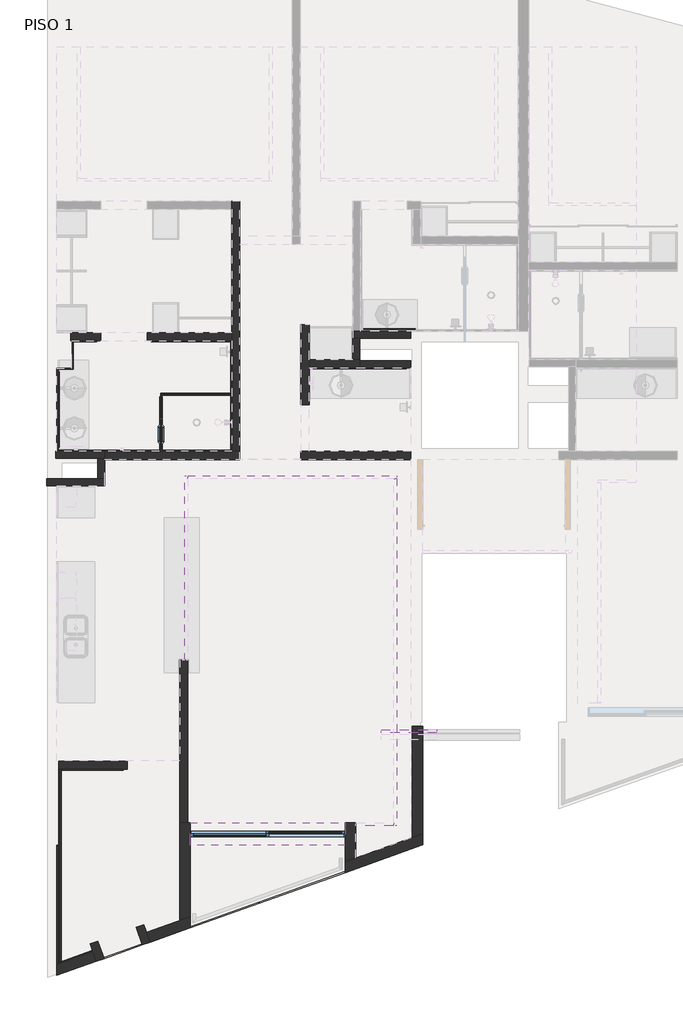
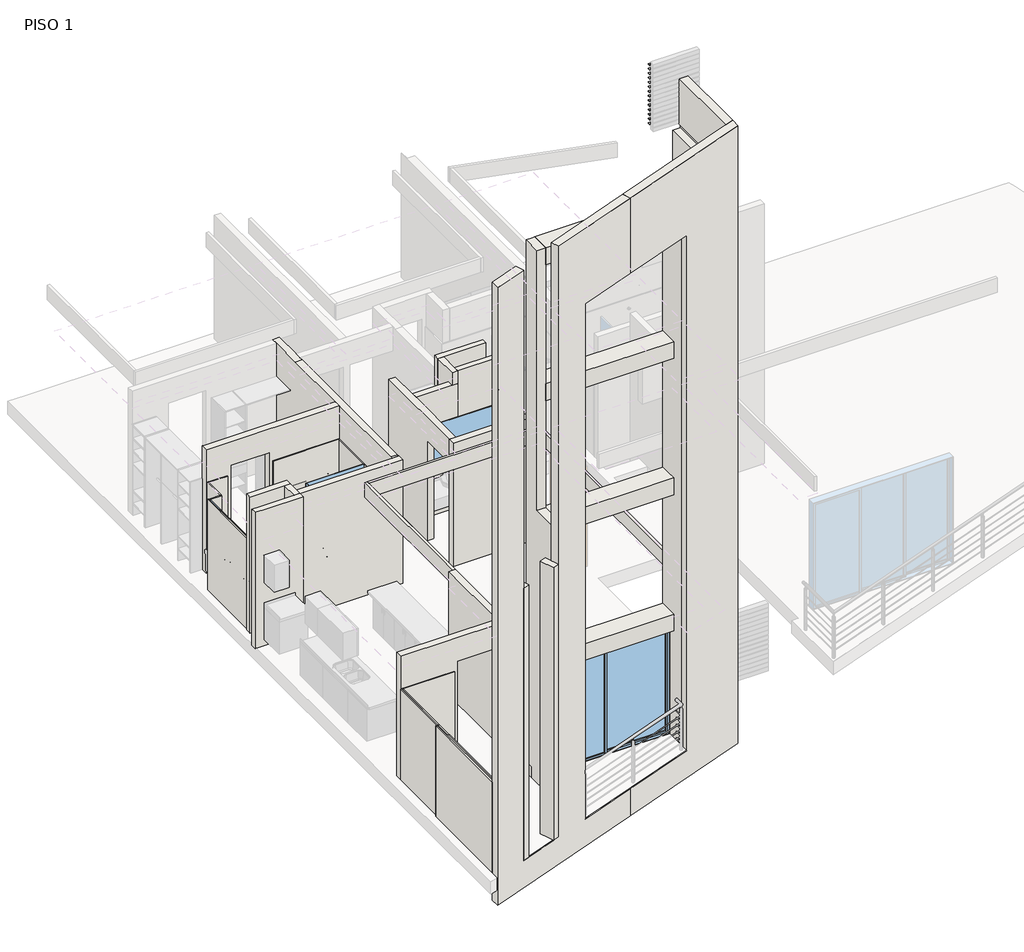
# One storey, part 1 of 4: 41 walls, 21 members, 6 windows.
"""IFC4 building model written with IfcOpenShell, lengths in millimetres."""

from ifc_helpers import new_model, si_unit, frame, origin, place, context, project, spatial, polyline, outline, extrude, faceted_brep, transform, mapped, element, save
from components import montante_rectangular_montante_rectangular_1_5x5_ea551b8a, montante_rectangular_montante_rectangular_1_5x5_73253757, window_76b8c877, window_f6d1640f, window_0ac24249, window_d0941a12, window_a27440a6, window_0328c900

model = new_model("IFC4")

# Units and contexts
model_context = context("Model", 3, world=origin())
ifc_project = project(units=[si_unit("LENGTHUNIT", "METRE", prefix="MILLI")], contexts=[model_context])

# Site, building, storey
site = spatial("IfcSite", under=ifc_project)
building = spatial("IfcBuilding", under=site)
storey = spatial("IfcBuildingStorey", under=building, Name="PISO 1", Elevation=3000.0)

# Members
placement = place(None, origin())
montante_rectangular_montante_rectangular_1_5x5_shape = montante_rectangular_montante_rectangular_1_5x5_ea551b8a(model_context)
element("IfcMember", 1, ObjectType="Montante rectangular : Montante rectangular - 1.5x5", at=placement, inside=storey, context=model_context, shape_type="MappedRepresentation", body=[
    mapped(montante_rectangular_montante_rectangular_1_5x5_shape, transform((39724.5059119, 25044.0111729, 15108.2666667), x_axis=(0.0, 0.0, 1.0), y_axis=(0.0, 1.0, 0.0), z_axis=(-1.0, 0.0, 0.0))),
])
element("IfcMember", 2, ObjectType="Montante rectangular : Montante rectangular - 1.5x5", at=placement, inside=storey, context=model_context, shape_type="MappedRepresentation", body=[
    mapped(montante_rectangular_montante_rectangular_1_5x5_shape, transform((39724.5059119, 25044.0111729, 15208.2333333), x_axis=(0.0, 0.0, 1.0), y_axis=(0.0, 1.0, 0.0), z_axis=(-1.0, 0.0, 0.0))),
])
element("IfcMember", 3, ObjectType="Montante rectangular : Montante rectangular - 1.5x5", at=placement, inside=storey, context=model_context, shape_type="MappedRepresentation", body=[
    mapped(montante_rectangular_montante_rectangular_1_5x5_shape, transform((39724.5059119, 25044.0111729, 15308.2), x_axis=(0.0, 0.0, 1.0), y_axis=(0.0, 1.0, 0.0), z_axis=(-1.0, 0.0, 0.0))),
])
element("IfcMember", 4, ObjectType="Montante rectangular : Montante rectangular - 1.5x5", at=placement, inside=storey, context=model_context, shape_type="MappedRepresentation", body=[
    mapped(montante_rectangular_montante_rectangular_1_5x5_shape, transform((39724.5059119, 25044.0111729, 15408.1666667), x_axis=(0.0, 0.0, 1.0), y_axis=(0.0, 1.0, 0.0), z_axis=(-1.0, 0.0, 0.0))),
])
element("IfcMember", 5, ObjectType="Montante rectangular : Montante rectangular - 1.5x5", at=placement, inside=storey, context=model_context, shape_type="MappedRepresentation", body=[
    mapped(montante_rectangular_montante_rectangular_1_5x5_shape, transform((39724.5059119, 25044.0111729, 15508.1333333), x_axis=(0.0, 0.0, 1.0), y_axis=(0.0, 1.0, 0.0), z_axis=(-1.0, 0.0, 0.0))),
])
element("IfcMember", 6, ObjectType="Montante rectangular : Montante rectangular - 1.5x5", at=placement, inside=storey, context=model_context, shape_type="MappedRepresentation", body=[
    mapped(montante_rectangular_montante_rectangular_1_5x5_shape, transform((39724.5059119, 25044.0111729, 15608.1), x_axis=(0.0, 0.0, 1.0), y_axis=(0.0, 1.0, 0.0), z_axis=(-1.0, 0.0, 0.0))),
])
element("IfcMember", 7, ObjectType="Montante rectangular : Montante rectangular - 1.5x5", at=placement, inside=storey, context=model_context, shape_type="MappedRepresentation", body=[
    mapped(montante_rectangular_montante_rectangular_1_5x5_shape, transform((39724.5059119, 25044.0111729, 15708.0666667), x_axis=(0.0, 0.0, 1.0), y_axis=(0.0, 1.0, 0.0), z_axis=(-1.0, 0.0, 0.0))),
])
element("IfcMember", 8, ObjectType="Montante rectangular : Montante rectangular - 1.5x5", at=placement, inside=storey, context=model_context, shape_type="MappedRepresentation", body=[
    mapped(montante_rectangular_montante_rectangular_1_5x5_shape, transform((39724.5059119, 25044.0111729, 15808.0333333), x_axis=(0.0, 0.0, 1.0), y_axis=(0.0, 1.0, 0.0), z_axis=(-1.0, 0.0, 0.0))),
])
element("IfcMember", 9, ObjectType="Montante rectangular : Montante rectangular - 1.5x5", at=placement, inside=storey, context=model_context, shape_type="MappedRepresentation", body=[
    mapped(montante_rectangular_montante_rectangular_1_5x5_shape, transform((39724.5059119, 25044.0111729, 15908.0), x_axis=(0.0, 0.0, 1.0), y_axis=(0.0, 1.0, 0.0), z_axis=(-1.0, 0.0, 0.0))),
])
element("IfcMember", 10, ObjectType="Montante rectangular : Montante rectangular - 1.5x5", at=placement, inside=storey, context=model_context, shape_type="MappedRepresentation", body=[
    mapped(montante_rectangular_montante_rectangular_1_5x5_shape, transform((39724.5059119, 25044.0111729, 16007.9666667), x_axis=(0.0, 0.0, 1.0), y_axis=(0.0, 1.0, 0.0), z_axis=(-1.0, 0.0, 0.0))),
])
element("IfcMember", 11, ObjectType="Montante rectangular : Montante rectangular - 1.5x5", at=placement, inside=storey, context=model_context, shape_type="MappedRepresentation", body=[
    mapped(montante_rectangular_montante_rectangular_1_5x5_shape, transform((39724.5059119, 25044.0111729, 16107.9333333), x_axis=(0.0, 0.0, 1.0), y_axis=(0.0, 1.0, 0.0), z_axis=(-1.0, 0.0, 0.0))),
])
element("IfcMember", 12, ObjectType="Montante rectangular : Montante rectangular - 1.5x5", at=placement, inside=storey, context=model_context, shape_type="MappedRepresentation", body=[
    mapped(montante_rectangular_montante_rectangular_1_5x5_shape, transform((39724.5059119, 25044.0111729, 16207.9), x_axis=(0.0, 0.0, 1.0), y_axis=(0.0, 1.0, 0.0), z_axis=(-1.0, 0.0, 0.0))),
])
element("IfcMember", 13, ObjectType="Montante rectangular : Montante rectangular - 1.5x5", at=placement, inside=storey, context=model_context, shape_type="MappedRepresentation", body=[
    mapped(montante_rectangular_montante_rectangular_1_5x5_shape, transform((39724.5059119, 25044.0111729, 16307.8666667), x_axis=(0.0, 0.0, 1.0), y_axis=(0.0, 1.0, 0.0), z_axis=(-1.0, 0.0, 0.0))),
])
element("IfcMember", 14, ObjectType="Montante rectangular : Montante rectangular - 1.5x5", at=placement, inside=storey, context=model_context, shape_type="MappedRepresentation", body=[
    mapped(montante_rectangular_montante_rectangular_1_5x5_shape, transform((39724.5059119, 25044.0111729, 16407.8333333), x_axis=(0.0, 0.0, 1.0), y_axis=(0.0, 1.0, 0.0), z_axis=(-1.0, 0.0, 0.0))),
])
montante_rectangular_montante_rectangular_1_5x5_2_shape = montante_rectangular_montante_rectangular_1_5x5_73253757(model_context)
element("IfcMember", 15, ObjectType="Montante rectangular : Montante rectangular - 1.5x5", at=placement, inside=storey, context=model_context, shape_type="MappedRepresentation", body=[
    mapped(montante_rectangular_montante_rectangular_1_5x5_2_shape, transform((40444.5059119, 25044.0111729, 2412.4668874), x_axis=(0.0, 0.0, 1.0), y_axis=(0.0, 1.0, 0.0), z_axis=(-1.0, 0.0, 0.0))),
])
element("IfcMember", 16, ObjectType="Montante rectangular : Montante rectangular - 1.5x5", at=placement, inside=storey, context=model_context, shape_type="MappedRepresentation", body=[
    mapped(montante_rectangular_montante_rectangular_1_5x5_2_shape, transform((40444.5059119, 25044.0111729, 2512.4337748), x_axis=(0.0, 0.0, 1.0), y_axis=(0.0, 1.0, 0.0), z_axis=(-1.0, 0.0, 0.0))),
])
element("IfcMember", 17, ObjectType="Montante rectangular : Montante rectangular - 1.5x5", at=placement, inside=storey, context=model_context, shape_type="MappedRepresentation", body=[
    mapped(montante_rectangular_montante_rectangular_1_5x5_2_shape, transform((40444.5059119, 25044.0111729, 2612.4006623), x_axis=(0.0, 0.0, 1.0), y_axis=(0.0, 1.0, 0.0), z_axis=(-1.0, 0.0, 0.0))),
])
element("IfcMember", 18, ObjectType="Montante rectangular : Montante rectangular - 1.5x5", at=placement, inside=storey, context=model_context, shape_type="MappedRepresentation", body=[
    mapped(montante_rectangular_montante_rectangular_1_5x5_2_shape, transform((40444.5059119, 25044.0111729, 2712.3675497), x_axis=(0.0, 0.0, 1.0), y_axis=(0.0, 1.0, 0.0), z_axis=(-1.0, 0.0, 0.0))),
])
element("IfcMember", 19, ObjectType="Montante rectangular : Montante rectangular - 1.5x5", at=placement, inside=storey, context=model_context, shape_type="MappedRepresentation", body=[
    mapped(montante_rectangular_montante_rectangular_1_5x5_2_shape, transform((40444.5059119, 25044.0111729, 2812.3344371), x_axis=(0.0, 0.0, 1.0), y_axis=(0.0, 1.0, 0.0), z_axis=(-1.0, 0.0, 0.0))),
])
element("IfcMember", 20, ObjectType="Montante rectangular : Montante rectangular - 1.5x5", at=placement, inside=storey, context=model_context, shape_type="MappedRepresentation", body=[
    mapped(montante_rectangular_montante_rectangular_1_5x5_2_shape, transform((40444.5059119, 25044.0111729, 2912.3013245), x_axis=(0.0, 0.0, 1.0), y_axis=(0.0, 1.0, 0.0), z_axis=(-1.0, 0.0, 0.0))),
])
element("IfcMember", 21, ObjectType="Montante rectangular : Montante rectangular - 1.5x5", at=placement, inside=storey, context=model_context, shape_type="MappedRepresentation", body=[
    mapped(montante_rectangular_montante_rectangular_1_5x5_2_shape, transform((40444.5059119, 25044.0111729, 3012.2682119), x_axis=(0.0, 0.0, 1.0), y_axis=(0.0, 1.0, 0.0), z_axis=(-1.0, 0.0, 0.0))),
])

# Walls
element("IfcWall", 22, ObjectType="Muro block 12cms_int_ductos", at=placement, inside=storey, context=model_context, shape_type="Brep", body=[
    faceted_brep([(39354.5300226, 31444.0104769, 3000.0), (39354.5300226, 31813.9733508, 3000.0), (39354.5300226, 31813.9733508, 6000.0), (39354.5300226, 31424.0104769, 6000.0), (39354.5300226, 31304.0104769, 6000.0), (39354.5300226, 31304.0104769, 5720.0), (39354.5300226, 31444.0104769, 5720.0), (39234.5300226, 31444.0104769, 3000.0), (39234.5300226, 31444.0104769, 5720.0), (39234.5300226, 31304.0104769, 5720.0), (39234.5300226, 31304.0104769, 6000.0), (39234.5300226, 31813.9733508, 6000.0), (39234.5300226, 31813.9733508, 3000.0)], [[[0, 1, 2, 3, 4, 5, 6]], [[7, 8, 9, 10, 11, 12]], [[1, 0, 7, 12]], [[4, 3, 2, 11, 10]], [[2, 1, 12, 11]], [[5, 9, 8, 6]], [[0, 6, 8, 7]], [[5, 4, 10, 9]]]),
])
element("IfcWall", 23, ObjectType="Trabe 35cms_para ventana 2", at=placement, inside=storey, context=model_context, shape_type="SweptSolid", body=[
    extrude(outline(polyline([(36434.5300226, 23470.9402233), (39104.5057602, 23470.9402233), (39104.5057602, 23080.9402233), (36434.5300226, 23080.9402233), (36434.5300226, 23470.9402233)])), frame((0.0, 0.0, 14350.0), z_axis=(0.0, 0.0, 1.0), x_axis=(1.0, 0.0, 0.0)), (0.0, 0.0, 1.0), 370.0),
    extrude(outline(polyline([(36434.5300226, 23470.9402233), (39104.5057602, 23470.9402233), (39104.5057602, 23080.9402233), (36434.5300226, 23080.9402233), (36434.5300226, 23470.9402233)])), frame((0.0, 0.0, 5350.0), z_axis=(0.0, 0.0, 1.0), x_axis=(1.0, 0.0, 0.0)), (0.0, 0.0, 1.0), 370.0),
    extrude(outline(polyline([(36434.5300226, 23470.9402233), (39104.5057602, 23470.9402233), (39104.5057602, 23080.9402233), (36434.5300226, 23080.9402233), (36434.5300226, 23470.9402233)])), frame((0.0, 0.0, 8350.0), z_axis=(0.0, 0.0, 1.0), x_axis=(1.0, 0.0, 0.0)), (0.0, 0.0, 1.0), 370.0),
    extrude(outline(polyline([(36434.5300226, 23470.9402233), (39104.5057602, 23470.9402233), (39104.5057602, 23080.9402233), (36434.5300226, 23080.9402233), (36434.5300226, 23470.9402233)])), frame((0.0, 0.0, 11350.0), z_axis=(0.0, 0.0, 1.0), x_axis=(1.0, 0.0, 0.0)), (0.0, 0.0, 1.0), 370.0),
])
element("IfcWall", 24, ObjectType="Muro block 12cms_int_ductos", at=placement, inside=storey, context=model_context, shape_type="Brep", body=[
    faceted_brep([(39234.5300226, 31813.9733508, 6000.0), (39234.5300226, 31813.9733508, 3000.0), (39354.5300226, 31813.9733508, 3000.0), (40234.5059119, 31813.9733508, 3000.0), (40234.5059119, 31813.9733508, 6000.0), (39354.5300226, 31813.9733508, 6000.0), (39234.5300226, 31933.9733508, 3000.0), (39234.5300226, 31933.9733508, 5720.0), (39234.5300226, 31933.9733508, 6000.0), (40234.5059119, 31933.9733508, 6000.0), (40234.5059119, 31933.9733508, 3000.0), (39374.5300226, 31933.9733508, 3000.0)], [[[0, 1, 2, 3, 4, 5]], [[6, 7, 8, 9, 10, 11]], [[3, 2, 1, 6, 11, 10]], [[0, 5, 4, 9, 8]], [[0, 8, 7, 6, 1]], [[4, 3, 10, 9]]]),
])
element("IfcWall", 25, ObjectType="Muro block 12cms_int_ductos", at=placement, inside=storey, context=model_context, shape_type="Brep", body=[
    faceted_brep([(39354.5300226, 31304.0104769, 3000.0), (40234.5059119, 31304.0104769, 3000.0), (40234.5059119, 31304.0104769, 6000.0), (39354.5300226, 31304.0104769, 6000.0), (39354.5300226, 31304.0104769, 5720.0), (39354.5300226, 31424.0104769, 3000.0), (39354.5300226, 31424.0104769, 6000.0), (40234.5059119, 31424.0104769, 6000.0), (40234.5059119, 31424.0104769, 3000.0)], [[[0, 1, 2, 3, 4]], [[5, 6, 7, 8]], [[1, 0, 5, 8]], [[3, 2, 7, 6]], [[0, 4, 3, 6, 5]], [[2, 1, 8, 7]]]),
])
element("IfcWall", 26, ObjectType="Muro block 12cms_int_ductos", at=placement, inside=storey, context=model_context, shape_type="Brep", body=[
    faceted_brep([(34123.8589874, 29744.010184, 6000.0), (34843.8589874, 29744.010184, 6000.0), (34963.8589874, 29744.010184, 6000.0), (34963.8589874, 29864.010184, 6000.0), (34123.8589874, 29864.010184, 6000.0), (34123.8589874, 29804.010184, 6000.0), (34123.8589874, 29744.010184, 3000.0), (34843.8589874, 29744.010184, 3000.0), (34963.8589874, 29744.010184, 3000.0), (34123.8589874, 29864.010184, 3000.0), (34963.8589874, 29864.010184, 5720.0), (34963.8589874, 29864.010184, 3000.0), (34143.8589874, 29864.010184, 3000.0)], [[[0, 1, 2, 3, 4, 5]], [[6, 7, 8, 2, 1, 0]], [[9, 4, 3, 10, 11, 12]], [[8, 7, 6, 9, 12, 11]], [[6, 0, 5, 4, 9]], [[8, 11, 10, 3, 2]]]),
])
element("IfcWall", 27, ObjectType="Muro block 12cms_int_ductos", at=placement, inside=storey, context=model_context, shape_type="Brep", body=[
    faceted_brep([(33963.8589874, 29274.010184, 6000.0), (34143.8589874, 29274.010184, 6000.0), (34963.8589874, 29274.010184, 6000.0), (34963.8589874, 29394.010184, 6000.0), (34843.8589874, 29394.010184, 6000.0), (34123.8589874, 29394.010184, 6000.0), (33963.8589874, 29394.010184, 6000.0), (33963.8589874, 29334.010184, 6000.0), (33963.8589874, 29274.010184, 3000.0), (33983.8589874, 29274.010184, 3000.0), (34143.8589874, 29274.010184, 3000.0), (34963.8589874, 29274.010184, 3000.0), (33963.8589874, 29394.010184, 3000.0), (34963.8589874, 29394.010184, 3000.0), (34843.8589874, 29394.010184, 3000.0)], [[[0, 1, 2, 3, 4, 5, 6, 7]], [[8, 9, 10, 11, 2, 1, 0]], [[12, 6, 5, 4, 3, 13, 14]], [[11, 10, 9, 8, 12, 14, 13]], [[8, 0, 7, 6, 12]], [[2, 11, 13, 3]]]),
])
element("IfcWall", 28, ObjectType="Muro block 12cms_int_ductos", at=placement, inside=storey, context=model_context, shape_type="Brep", body=[
    faceted_brep([(34963.8589874, 29394.010184, 3000.0), (34963.8589874, 29724.010184, 3000.0), (34963.8589874, 29744.010184, 3000.0), (34963.8589874, 29744.010184, 6000.0), (34963.8589874, 29394.010184, 6000.0), (34843.8589874, 29394.010184, 3000.0), (34843.8589874, 29394.010184, 6000.0), (34843.8589874, 29744.010184, 6000.0), (34843.8589874, 29744.010184, 3000.0)], [[[0, 1, 2, 3, 4]], [[5, 6, 7, 8]], [[2, 1, 0, 5, 8]], [[4, 3, 7, 6]], [[2, 8, 7, 3]], [[0, 4, 6, 5]]]),
])
element("IfcWall", 29, ObjectType="Plafond tablaroca", at=placement, inside=storey, context=model_context, shape_type="Brep", body=[
    faceted_brep([(36394.5300226, 26269.0176189, 5402.7), (36394.5300226, 29394.010184, 5402.7), (36394.5300226, 29446.710184, 5402.7), (36394.5300226, 29446.710184, 5720.0), (36394.5300226, 29394.010184, 5720.0), (36394.5300226, 26269.0176189, 5720.0), (36341.8300226, 26269.0176189, 5402.7), (36341.8300226, 26269.0176189, 5720.0), (36341.8300226, 29446.710184, 5720.0), (36341.8300226, 29446.710184, 5402.7)], [[[0, 1, 2, 3, 4, 5]], [[6, 7, 8, 9]], [[0, 5, 7, 6]], [[3, 2, 9, 8]], [[2, 1, 0, 6, 9]], [[5, 4, 3, 8, 7]]]),
])
element("IfcWall", 30, ObjectType="Plafond tablaroca", at=placement, inside=storey, context=model_context, shape_type="Brep", body=[
    faceted_brep([(36394.5300226, 29394.010184, 5402.7), (39939.5059119, 29394.010184, 5402.7), (39992.2059119, 29394.010184, 5402.7), (39992.2059119, 29394.010184, 5720.0), (39939.5059119, 29394.010184, 5720.0), (36394.5300226, 29394.010184, 5720.0), (36394.5300226, 29446.710184, 5402.7), (36394.5300226, 29446.710184, 5720.0), (39992.2059119, 29446.710184, 5720.0), (39992.2059119, 29446.710184, 5402.7)], [[[0, 1, 2, 3, 4, 5]], [[6, 7, 8, 9]], [[0, 5, 7, 6]], [[3, 2, 9, 8]], [[2, 1, 0, 6, 9]], [[5, 4, 3, 8, 7]]]),
])
element("IfcWall", 31, ObjectType="Plafond tablaroca", at=placement, inside=storey, context=model_context, shape_type="Brep", body=[
    faceted_brep([(39939.5059119, 29394.010184, 5402.7), (39939.5059119, 23470.9402233, 5402.7), (39939.5059119, 23418.2402233, 5402.7), (39939.5059119, 23418.2402233, 5720.0), (39939.5059119, 23470.9402233, 5720.0), (39939.5059119, 29394.010184, 5720.0), (39992.2059119, 29394.010184, 5402.7), (39992.2059119, 29394.010184, 5720.0), (39992.2059119, 23418.2402233, 5720.0), (39992.2059119, 23418.2402233, 5402.7)], [[[0, 1, 2, 3, 4, 5]], [[6, 7, 8, 9]], [[0, 5, 7, 6]], [[3, 2, 9, 8]], [[2, 1, 0, 6, 9]], [[5, 4, 3, 8, 7]]]),
])
element("IfcWall", 32, ObjectType="Plafond tablaroca", at=placement, inside=storey, context=model_context, shape_type="SweptSolid", body=[
    extrude(outline(polyline([(39284.5057602, 23470.9402233), (39939.5059119, 23470.9402233), (39939.5059119, 23418.2402233), (39284.5057602, 23418.2402233), (39284.5057602, 23470.9402233)])), frame((0.0, 0.0, 5402.7), z_axis=(0.0, 0.0, 1.0), x_axis=(1.0, 0.0, 0.0)), (0.0, 0.0, 1.0), 317.3),
])
element("IfcWall", 33, ObjectType="Cerámica baño", at=placement, inside=storey, context=model_context, shape_type="Brep", body=[
    faceted_brep([(34163.8589874, 29864.010184, 3000.0), (34163.8589874, 29884.010184, 3000.0), (34163.8589874, 31273.9733508, 3000.0), (34163.8589874, 31293.9733508, 3000.0), (34163.8589874, 31293.9733508, 5000.0), (34163.8589874, 31273.9733508, 5000.0), (34163.8589874, 29884.010184, 5000.0), (34163.8589874, 29864.010184, 5000.0), (34143.8589874, 29864.010184, 3000.0), (34143.8589874, 29864.010184, 5000.0), (34143.8589874, 31293.9733508, 5000.0), (34143.8589874, 31293.9733508, 3000.0)], [[[0, 1, 2, 3, 4, 5, 6, 7]], [[8, 9, 10, 11]], [[3, 2, 1, 0, 8, 11]], [[7, 6, 5, 4, 10, 9]], [[0, 7, 9, 8]], [[4, 3, 11, 10]]]),
])
element("IfcWall", 34, ObjectType="Cerámica baño", at=placement, inside=storey, context=model_context, shape_type="Brep", body=[
    faceted_brep([(34163.8589874, 29864.010184, 3000.0), (37154.5300226, 29864.010184, 3000.0), (37154.5300226, 29864.010184, 5000.0), (34163.8589874, 29864.010184, 5000.0), (34163.8589874, 29884.010184, 3000.0), (34163.8589874, 29884.010184, 5000.0), (37134.5300226, 29884.010184, 5000.0), (37154.5300226, 29884.010184, 5000.0), (37154.5300226, 29884.010184, 3000.0), (37134.5300226, 29884.010184, 3000.0)], [[[0, 1, 2, 3]], [[4, 5, 6, 7, 8, 9]], [[1, 0, 4, 9, 8]], [[3, 2, 7, 6, 5]], [[0, 3, 5, 4]], [[2, 1, 8, 7]]]),
])
element("IfcWall", 35, ObjectType="Cerámica baño", at=placement, inside=storey, context=model_context, shape_type="Brep", body=[
    faceted_brep([(37154.5300226, 29884.010184, 3000.0), (37154.5300226, 31768.9733508, 3000.0), (37154.5300226, 31768.9733508, 5000.0), (37154.5300226, 29884.010184, 5000.0), (37134.5300226, 29884.010184, 3000.0), (37134.5300226, 29884.010184, 5000.0), (37134.5300226, 31748.9733508, 5000.0), (37134.5300226, 31768.9733508, 5000.0), (37134.5300226, 31768.9733508, 3000.0), (37134.5300226, 31748.9733508, 3000.0)], [[[0, 1, 2, 3]], [[4, 5, 6, 7, 8, 9]], [[1, 0, 4, 9, 8]], [[3, 2, 7, 6, 5]], [[2, 1, 8, 7]], [[0, 3, 5, 4]]]),
])
element("IfcWall", 36, ObjectType="Cerámica baño", at=placement, inside=storey, context=model_context, shape_type="SweptSolid", body=[
    extrude(outline(polyline([(35764.5300226, 31768.9733508), (37134.5300226, 31768.9733508), (37134.5300226, 31748.9733508), (35764.5300226, 31748.9733508), (35764.5300226, 31768.9733508)])), frame((0.0, 0.0, 3000.0), z_axis=(0.0, 0.0, 1.0), x_axis=(1.0, 0.0, 0.0)), (0.0, 0.0, 1.0), 2000.0),
])
element("IfcWall", 37, ObjectType="Cerámica baño", at=placement, inside=storey, context=model_context, shape_type="Brep", body=[
    faceted_brep([(34163.8589874, 31273.9733508, 3000.0), (34423.8589874, 31273.9733508, 3000.0), (34423.8589874, 31273.9733508, 5000.0), (34163.8589874, 31273.9733508, 5000.0), (34163.8589874, 31293.9733508, 3000.0), (34163.8589874, 31293.9733508, 5000.0), (34403.8589874, 31293.9733508, 5000.0), (34423.8589874, 31293.9733508, 5000.0), (34423.8589874, 31293.9733508, 3000.0), (34403.8589874, 31293.9733508, 3000.0)], [[[0, 1, 2, 3]], [[4, 5, 6, 7, 8, 9]], [[1, 0, 4, 9, 8]], [[3, 2, 7, 6, 5]], [[2, 1, 8, 7]], [[0, 3, 5, 4]]]),
])
element("IfcWall", 38, ObjectType="Cerámica baño", at=placement, inside=storey, context=model_context, shape_type="Brep", body=[
    faceted_brep([(34423.8589874, 31293.9733508, 3000.0), (34423.8589874, 31748.9733508, 3000.0), (34423.8589874, 31768.9733508, 3000.0), (34423.8589874, 31768.9733508, 5000.0), (34423.8589874, 31748.9733508, 5000.0), (34423.8589874, 31293.9733508, 5000.0), (34403.8589874, 31293.9733508, 3000.0), (34403.8589874, 31293.9733508, 5000.0), (34403.8589874, 31768.9733508, 5000.0), (34403.8589874, 31768.9733508, 3000.0)], [[[0, 1, 2, 3, 4, 5]], [[6, 7, 8, 9]], [[2, 1, 0, 6, 9]], [[5, 4, 3, 8, 7]], [[0, 5, 7, 6]], [[3, 2, 9, 8]]]),
])
element("IfcWall", 39, ObjectType="Cerámica baño", at=placement, inside=storey, context=model_context, shape_type="SweptSolid", body=[
    extrude(outline(polyline([(34824.5300226, 31748.9733508), (34423.8589874, 31748.9733508), (34423.8589874, 31768.9733508), (34824.5300226, 31768.9733508), (34824.5300226, 31748.9733508)])), frame((0.0, 0.0, 3000.0), z_axis=(0.0, 0.0, 1.0), x_axis=(1.0, 0.0, 0.0)), (0.0, 0.0, 1.0), 2000.0),
])
element("IfcWall", 40, ObjectType="Cerámica baño", at=placement, inside=storey, context=model_context, shape_type="SweptSolid", body=[
    extrude(outline(polyline([(34173.8589874, 23080.9402233), (34173.8589874, 24392.4819685), (34193.8589874, 24392.4819685), (34193.8589874, 23080.9402233), (34173.8589874, 23080.9402233)])), frame((0.0, 0.0, 3000.0), z_axis=(0.0, 0.0, 1.0), x_axis=(1.0, 0.0, 0.0)), (0.0, 0.0, 1.0), 2000.0),
])
element("IfcWall", 41, ObjectType="Cerámica baño", at=placement, inside=storey, context=model_context, shape_type="Brep", body=[
    faceted_brep([(34193.8589874, 23080.9402233, 3000.0), (34173.8589874, 23080.9402233, 3000.0), (34143.8589874, 23080.9402233, 3000.0), (34143.8589874, 23080.9402233, 5000.0), (34173.8589874, 23080.9402233, 5000.0), (34193.8589874, 23080.9402233, 5000.0), (34193.8589874, 23060.9402233, 3000.0), (34193.8589874, 23060.9402233, 5000.0), (34163.8589874, 23060.9402233, 5000.0), (34143.8589874, 23060.9402233, 5000.0), (34143.8589874, 23060.9402233, 3000.0), (34163.8589874, 23060.9402233, 3000.0)], [[[0, 1, 2, 3, 4, 5]], [[6, 7, 8, 9, 10, 11]], [[2, 1, 0, 6, 11, 10]], [[5, 4, 3, 9, 8, 7]], [[0, 5, 7, 6]], [[3, 2, 10, 9]]]),
])
element("IfcWall", 42, ObjectType="Cerámica baño", at=placement, inside=storey, context=model_context, shape_type="Brep", body=[
    faceted_brep([(34143.8589874, 23060.9402233, 3000.0), (34143.8589874, 21032.6648258, 3000.0), (34143.8589874, 21032.6648258, 5000.0), (34143.8589874, 23060.9402233, 5000.0), (34163.8589874, 23060.9402233, 3000.0), (34163.8589874, 23060.9402233, 5000.0), (34163.8589874, 21061.0238339, 5000.0), (34163.8589874, 21039.7918971, 5000.0), (34163.8589874, 21039.7918971, 3000.0), (34163.8589874, 21061.0238339, 3000.0)], [[[0, 1, 2, 3]], [[4, 5, 6, 7, 8, 9]], [[1, 0, 4, 9, 8]], [[3, 2, 7, 6, 5]], [[0, 3, 5, 4]], [[2, 1, 8, 7]]]),
])
element("IfcWall", 43, ObjectType="Cerámica baño", at=placement, inside=storey, context=model_context, shape_type="SweptSolid", body=[
    extrude(outline(polyline([(34762.5272081, 21253.1294489), (34163.8589874, 21039.7918971), (34163.8589874, 21061.0238339), (34755.8136696, 21271.9689925), (34762.5272081, 21253.1294489)])), frame((0.0, 0.0, 3000.0), z_axis=(0.0, 0.0, 1.0), x_axis=(1.0, 0.0, 0.0)), (0.0, 0.0, 1.0), 2000.0),
])
element("IfcWall", 44, ObjectType="Cerámica baño", at=placement, inside=storey, context=model_context, shape_type="Brep", body=[
    faceted_brep([(34193.8589874, 24392.4819685, 3000.0), (34193.8589874, 21050.4825039, 3000.0), (34193.8589874, 21050.4825039, 5000.0), (34193.8589874, 24392.4819685, 5000.0), (34213.8589874, 24392.4819685, 3000.0), (34213.8589874, 24392.4819685, 5000.0), (34213.8589874, 24372.4819685, 5000.0), (34213.8589874, 21057.6095751, 5000.0), (34213.8589874, 21057.6095751, 3000.0), (34213.8589874, 24372.4819685, 3000.0)], [[[0, 1, 2, 3]], [[4, 5, 6, 7, 8, 9]], [[1, 0, 4, 9, 8]], [[3, 2, 7, 6, 5]], [[0, 3, 5, 4]], [[2, 1, 8, 7]]]),
])
element("IfcWall", 45, ObjectType="Cerámica baño", at=placement, inside=storey, context=model_context, shape_type="SweptSolid", body=[
    extrude(outline(polyline([(34213.8589874, 24392.4819685), (35284.5300226, 24392.4819685), (35284.5300226, 24372.4819685), (34213.8589874, 24372.4819685), (34213.8589874, 24392.4819685)])), frame((0.0, 0.0, 3000.0), z_axis=(0.0, 0.0, 1.0), x_axis=(1.0, 0.0, 0.0)), (0.0, 0.0, 1.0), 2000.0),
])
element("IfcWall", 46, ObjectType="Muro block 14cms_int", at=placement, inside=storey, context=model_context, shape_type="Brep", body=[
    faceted_brep([(35694.5300226, 31768.9733508, 3000.0), (37154.5300226, 31768.9733508, 3000.0), (37154.5300226, 31768.9733508, 5720.0), (34398.8589874, 31768.9733508, 5720.0), (34383.8589874, 31768.9733508, 5720.0), (34383.8589874, 31768.9733508, 3000.0), (34398.8589874, 31768.9733508, 3000.0), (34894.5300226, 31768.9733508, 3000.0), (34894.5300226, 31768.9733508, 5200.0), (35694.5300226, 31768.9733508, 5200.0), (37154.5300226, 31908.9733508, 3000.0), (35694.5300226, 31908.9733508, 3000.0), (35694.5300226, 31908.9733508, 5200.0), (34894.5300226, 31908.9733508, 5200.0), (34894.5300226, 31908.9733508, 3000.0), (34398.8589874, 31908.9733508, 3000.0), (34383.8589874, 31908.9733508, 3000.0), (34383.8589874, 31908.9733508, 5720.0), (34398.8589874, 31908.9733508, 5720.0), (37154.5300226, 31908.9733508, 5720.0), (34383.8589874, 31788.9733508, 3000.0)], [[[0, 1, 2, 3, 4, 5, 6, 7, 8, 9]], [[10, 11, 12, 13, 14, 15, 16, 17, 18, 19]], [[1, 0, 11, 10]], [[14, 7, 6, 5, 20, 16, 15]], [[0, 9, 12, 11]], [[9, 8, 13, 12]], [[8, 7, 14, 13]], [[2, 1, 10, 19]], [[5, 4, 17, 16, 20]], [[2, 19, 18, 17, 4, 3]]]),
])
element("IfcWall", 47, ObjectType="Muro block 14cms_int", at=placement, inside=storey, context=model_context, shape_type="Brep", body=[
    faceted_brep([(40234.5059119, 29864.010184, 3000.0), (38344.5059119, 29864.010184, 3000.0), (38344.5059119, 29864.010184, 5200.0), (38344.5059119, 29864.010184, 5720.0), (38484.5059119, 29864.010184, 5720.0), (40234.5059119, 29864.010184, 5720.0), (40234.5059119, 29724.010184, 3000.0), (40234.5059119, 29724.010184, 5720.0), (38344.5059119, 29724.010184, 5720.0), (38344.5059119, 29724.010184, 3000.0)], [[[0, 1, 2, 3, 4, 5]], [[6, 7, 8, 9]], [[1, 0, 6, 9]], [[3, 2, 1, 9, 8]], [[0, 5, 7, 6]], [[5, 4, 3, 8, 7]]]),
])
element("IfcWall", 48, ObjectType="Muro block 14cms_int", at=placement, inside=storey, context=model_context, shape_type="Brep", body=[
    faceted_brep([(38484.5059119, 32044.0104769, 3000.0), (38484.5059119, 32044.0104769, 5720.0), (38484.5059119, 31444.0104769, 5720.0), (38484.5059119, 31304.0104769, 5720.0), (38484.5059119, 29864.010184, 5720.0), (38484.5059119, 29864.010184, 5200.0), (38484.5059119, 30664.010184, 5200.0), (38484.5059119, 30664.010184, 3000.0), (38484.5059119, 31304.0104769, 3000.0), (38484.5059119, 31444.0104769, 3000.0), (38344.5059119, 32044.0104769, 5720.0), (38344.5059119, 32044.0104769, 3000.0), (38344.5059119, 30664.010184, 3000.0), (38344.5059119, 30664.010184, 5200.0), (38344.5059119, 29864.010184, 5200.0), (38344.5059119, 29864.010184, 5720.0)], [[[0, 1, 2, 3, 4, 5, 6, 7, 8, 9]], [[10, 11, 12, 13, 14, 15]], [[11, 0, 9, 8, 7, 12]], [[1, 0, 11, 10]], [[4, 15, 14, 5]], [[13, 6, 5, 14]], [[6, 13, 12, 7]], [[15, 4, 3, 2, 1, 10]]]),
])
element("IfcWall", 49, ObjectType="Muro block 14cms_int", at=placement, inside=storey, context=model_context, shape_type="Brep", body=[
    faceted_brep([(38484.5059119, 31304.0104769, 3000.0), (39354.5300226, 31304.0104769, 3000.0), (39354.5300226, 31304.0104769, 5720.0), (39234.5300226, 31304.0104769, 5720.0), (38484.5059119, 31304.0104769, 5720.0), (38484.5059119, 31444.0104769, 3000.0), (38484.5059119, 31444.0104769, 5720.0), (39234.5300226, 31444.0104769, 5720.0), (39354.5300226, 31444.0104769, 5720.0), (39354.5300226, 31444.0104769, 3000.0), (39234.5300226, 31444.0104769, 3000.0), (39354.5300226, 31424.0104769, 3000.0), (39354.5300226, 31424.0104769, 5720.0)], [[[0, 1, 2, 3, 4]], [[5, 6, 7, 8, 9, 10]], [[1, 0, 5, 10, 9, 11]], [[0, 4, 6, 5]], [[2, 1, 11, 9, 8, 12]], [[4, 3, 2, 12, 8, 7, 6]]]),
])
element("IfcWall", 50, ObjectType="Muro block 14cms_int", at=placement, inside=storey, context=model_context, shape_type="Brep", body=[
    faceted_brep([(37294.5300226, 29864.010184, 3000.0), (37294.5300226, 34168.9785701, 3000.0), (37294.5300226, 34168.9785701, 5720.0), (37294.5300226, 33568.9784839, 5720.0), (37294.5300226, 33428.9784839, 5720.0), (37294.5300226, 33348.9733508, 5720.0), (37294.5300226, 29913.9733508, 5720.0), (37294.5300226, 29864.010184, 5720.0), (37154.5300226, 29864.010184, 3000.0), (37154.5300226, 29864.010184, 5720.0), (37154.5300226, 29913.9733508, 5720.0), (37154.5300226, 31768.9733508, 5720.0), (37154.5300226, 31908.9733508, 5720.0), (37154.5300226, 33348.9733508, 5720.0), (37154.5300226, 34028.9785701, 5720.0), (37154.5300226, 34168.9785701, 5720.0), (37154.5300226, 34168.9785701, 3000.0), (37154.5300226, 34028.9785701, 3000.0), (37154.5300226, 31908.9733508, 3000.0), (37154.5300226, 31768.9733508, 3000.0)], [[[0, 1, 2, 3, 4, 5, 6, 7]], [[8, 9, 10, 11, 12, 13, 14, 15, 16, 17, 18, 19]], [[1, 0, 8, 19, 18, 17, 16]], [[2, 1, 16, 15]], [[0, 7, 9, 8]], [[6, 5, 13, 12, 11, 10]], [[7, 6, 10, 9]], [[5, 4, 3, 2, 15, 14, 13]]]),
])
element("IfcWall", 51, ObjectType="Muro block 14cms_int", at=placement, inside=storey, context=model_context, shape_type="Brep", body=[
    faceted_brep([(36254.5300226, 24392.4819685, 5720.0), (34173.8589874, 24392.4819685, 5720.0), (34173.8589874, 24392.4819685, 5000.0), (34173.8589874, 24392.4819685, 3000.0), (34193.8589874, 24392.4819685, 3000.0), (35354.5300226, 24392.4819685, 3000.0), (35354.5300226, 24392.4819685, 5200.0), (36254.5300226, 24392.4819685, 5200.0), (34173.8589874, 24532.4819685, 5720.0), (36254.5300226, 24532.4819685, 5720.0), (36254.5300226, 24532.4819685, 5200.0), (35354.5300226, 24532.4819685, 5200.0), (35354.5300226, 24532.4819685, 3000.0), (34173.8589874, 24532.4819685, 3000.0)], [[[0, 1, 2, 3, 4, 5, 6, 7]], [[8, 9, 10, 11, 12, 13]], [[3, 13, 12, 5, 4]], [[9, 0, 7, 10]], [[6, 11, 10, 7]], [[11, 6, 5, 12]], [[1, 0, 9, 8]], [[13, 3, 2, 1, 8]]]),
])
element("IfcWall", 52, ObjectType="Muro block 14cms_int", at=placement, inside=storey, context=model_context, shape_type="Brep", body=[
    faceted_brep([(36394.5300226, 23275.9402233, 3000.0), (36394.5300226, 26269.0176189, 3000.0), (36394.5300226, 26269.0176189, 5720.0), (36394.5300226, 23470.9402233, 5720.0), (36394.5300226, 23470.9402233, 3233.4933171), (36394.5300226, 23275.9402233, 3233.4933171), (36254.5300226, 23275.9402233, 3000.0), (36254.5300226, 23275.9402233, 3233.4933171), (36254.5300226, 23470.9402233, 3233.4933171), (36254.5300226, 23470.9402233, 5720.0), (36254.5300226, 24392.4819685, 5720.0), (36254.5300226, 24532.4819685, 5720.0), (36254.5300226, 26269.0176189, 5720.0), (36254.5300226, 26269.0176189, 3000.0), (36341.8300226, 26269.0176189, 5720.0)], [[[0, 1, 2, 3, 4, 5]], [[6, 7, 8, 9, 10, 11, 12, 13]], [[1, 0, 6, 13]], [[2, 1, 13, 12, 14]], [[3, 2, 14, 12, 11, 10, 9]], [[0, 5, 7, 6]], [[4, 8, 7, 5]], [[4, 3, 9, 8]]]),
])
element("IfcWall", 53, ObjectType="Muro block 14cms_int", at=placement, inside=storey, context=model_context, shape_type="Brep", body=[
    faceted_brep([(34963.8589874, 29724.010184, 3000.0), (37294.5300226, 29724.010184, 3000.0), (37294.5300226, 29724.010184, 5720.0), (34963.8589874, 29724.010184, 5720.0), (34963.8589874, 29864.010184, 3000.0), (34963.8589874, 29864.010184, 5720.0), (37154.5300226, 29864.010184, 5720.0), (37294.5300226, 29864.010184, 5720.0), (37294.5300226, 29864.010184, 3000.0), (37154.5300226, 29864.010184, 3000.0), (34963.8589874, 29744.010184, 3000.0)], [[[0, 1, 2, 3]], [[4, 5, 6, 7, 8, 9]], [[1, 0, 10, 4, 9, 8]], [[2, 1, 8, 7]], [[0, 3, 5, 4, 10]], [[3, 2, 7, 6, 5]]]),
])
element("IfcWall", 54, ObjectType="Muro block 14cms_int", at=placement, inside=storey, context=model_context, shape_type="Brep", body=[
    faceted_brep([(34954.8258589, 21130.5683258, 3000.0), (34847.4092594, 21432.0009799, 3000.0), (34847.4092594, 21432.0009799, 9000.0), (34954.8258589, 21130.5683258, 9000.0), (34822.9490539, 21083.5735568, 3000.0), (34822.9490539, 21083.5735568, 9000.0), (34715.5324544, 21385.006211, 9000.0), (34715.5324544, 21385.006211, 3000.0), (34762.5272081, 21253.1294489, 3000.0)], [[[0, 1, 2, 3]], [[4, 5, 6, 7, 8]], [[1, 0, 4, 8, 7]], [[2, 1, 7, 6]], [[3, 2, 6, 5]], [[0, 3, 5, 4]]]),
])
element("IfcWall", 55, ObjectType="Muro block 14cms_int", at=placement, inside=storey, context=model_context, shape_type="Brep", body=[
    faceted_brep([(35506.7932842, 21666.9748248, 3000.0), (35614.2098837, 21365.5421706, 3000.0), (35614.2098837, 21365.5421706, 9000.0), (35506.7932842, 21666.9748248, 9000.0), (35638.6700892, 21713.9695938, 3000.0), (35638.6700892, 21713.9695938, 9000.0), (35746.0866887, 21412.5369396, 9000.0), (35746.0866887, 21412.5369396, 3000.0), (35685.6648429, 21582.0928317, 3000.0)], [[[0, 1, 2, 3]], [[4, 5, 6, 7, 8]], [[1, 0, 4, 8, 7]], [[3, 2, 6, 5]], [[0, 3, 5, 4]], [[2, 1, 7, 6]]]),
])
element("IfcWall", 56, ObjectType="Muro block 18cms_ext", at=placement, inside=storey, context=model_context, shape_type="Brep", body=[
    faceted_brep([(40444.5059119, 23277.9227896, 2400.0), (40264.5059119, 23213.7791487, 2400.0), (37562.5611718, 22250.9315208, 2400.0), (37562.5611718, 22250.9315208, 2720.0), (40394.5059119, 23260.1051116, 2720.0), (40394.5059119, 23260.1051116, 3000.0), (39284.5057602, 22864.5526055, 3000.0), (39104.5057602, 22800.4089647, 3000.0), (39104.5057602, 22800.4089647, 9000.0), (39104.5057602, 22800.4089647, 14350.0), (37562.5611718, 22250.9315208, 14350.0), (37562.5611718, 22250.9315208, 14720.0), (39104.5057602, 22800.4089647, 14720.0), (39284.5057602, 22864.5526055, 14720.0), (40264.5059119, 23213.7791487, 14720.0), (40424.5059119, 23270.7957184, 14720.0), (40424.5059119, 23270.7957184, 15000.0), (40264.5059119, 23213.7791487, 15000.0), (37562.5611718, 22250.9315208, 15000.0), (37562.5611718, 22250.9315208, 16000.0), (40264.5059119, 23213.7791487, 16000.0), (40444.5059119, 23277.9227896, 16000.0), (37622.9830176, 22081.3756287, 2400.0), (40444.5059119, 23086.8353576, 2400.0), (40444.5059119, 23086.8353576, 16000.0), (37622.9830176, 22081.3756287, 16000.0), (37622.9830176, 22081.3756287, 14350.0), (39104.5057602, 22609.3215327, 14350.0), (39104.5057602, 22609.3215327, 3000.0), (37622.9830176, 22081.3756287, 3000.0), (37616.2694792, 22100.2151723, 3000.0), (37616.2694792, 22100.2151723, 2720.0), (37616.2694792, 22100.2151723, 15000.0), (37616.2694792, 22100.2151723, 14720.0), (39104.5057602, 22630.5534696, 3000.0), (40394.5059119, 23090.2496165, 2720.0), (40394.5059119, 23090.2496165, 3000.0), (40424.5059119, 23100.9402233, 14720.0), (40424.5059119, 23100.9402233, 15000.0)], [[[0, 1, 2, 3, 4, 5, 6, 7, 8, 9, 10, 11, 12, 13, 14, 15, 16, 17, 18, 19, 20, 21]], [[22, 23, 24, 25, 26, 27, 28, 29]], [[2, 1, 0, 23, 22]], [[2, 22, 29, 30, 31, 3]], [[25, 19, 18, 32, 33, 11, 10, 26]], [[21, 20, 19, 25, 24]], [[10, 9, 27, 26]], [[29, 28, 34, 30]], [[4, 3, 31, 35]], [[7, 6, 5, 36, 34]], [[36, 35, 31, 30, 34]], [[0, 21, 24, 23]], [[35, 36, 5, 4]], [[27, 9, 8, 7, 34, 28]], [[33, 37, 15, 14, 13, 12, 11]], [[16, 38, 32, 18, 17]], [[37, 38, 16, 15]], [[38, 37, 33, 32]]]),
])
element("IfcWall", 57, ObjectType="Muro block 18cms_ext", at=placement, inside=storey, context=model_context, shape_type="Brep", body=[
    faceted_brep([(36434.5300226, 21848.9536047, 3000.0), (36434.5300226, 23275.9402233, 3000.0), (36434.5300226, 23275.9402233, 3233.4933171), (36434.5300226, 23470.9402233, 3233.4933171), (36434.5300226, 23470.9402233, 5350.0), (36434.5300226, 23470.9402233, 5720.0), (36434.5300226, 23470.9402233, 8350.0), (36434.5300226, 23470.9402233, 8720.0), (36434.5300226, 23470.9402233, 11350.0), (36434.5300226, 23470.9402233, 11720.0), (36434.5300226, 23470.9402233, 14350.0), (36434.5300226, 23470.9402233, 14720.0), (36434.5300226, 23080.9402233, 14720.0), (36434.5300226, 23080.9402233, 14350.0), (36434.5300226, 23080.9402233, 11720.0), (36434.5300226, 23080.9402233, 11350.0), (36434.5300226, 23080.9402233, 9000.0), (36434.5300226, 21848.9536047, 9000.0), (36254.5300226, 23275.9402233, 3000.0), (36254.5300226, 21784.8099638, 3000.0), (36254.5300226, 21784.8099638, 9000.0), (36254.5300226, 23080.9402233, 9000.0), (36254.5300226, 23080.9402233, 14720.0), (36254.5300226, 23470.9402233, 14720.0), (36254.5300226, 23470.9402233, 12000.0), (36254.5300226, 23470.9402233, 9000.0), (36254.5300226, 23470.9402233, 8720.0), (36254.5300226, 23470.9402233, 6000.0), (36254.5300226, 23470.9402233, 5720.0), (36254.5300226, 23470.9402233, 3233.4933171), (36254.5300226, 23275.9402233, 3233.4933171), (36394.5300226, 23275.9402233, 3000.0), (36394.5300226, 23275.9402233, 3233.4933171), (36394.5300226, 23470.9402233, 3233.4933171), (36394.5300226, 23470.9402233, 14720.0)], [[[0, 1, 2, 3, 4, 5, 6, 7, 8, 9, 10, 11, 12, 13, 14, 15, 16, 17]], [[18, 19, 20, 21, 22, 23, 24, 25, 26, 27, 28, 29, 30]], [[1, 0, 19, 18, 31]], [[19, 0, 17, 20]], [[17, 16, 21, 20]], [[21, 16, 15, 14, 13, 12, 22]], [[18, 30, 32, 2, 1, 31]], [[3, 2, 32, 30, 29, 33]], [[11, 10, 9, 8, 7, 6, 5, 4, 3, 33, 29, 28, 27, 26, 25, 24, 23, 34]], [[11, 34, 23, 22, 12]]]),
])
element("IfcWall", 58, ObjectType="Muro block 18cms_ext", at=placement, inside=storey, context=model_context, shape_type="Brep", body=[
    faceted_brep([(37562.5611718, 22250.9315208, 2400.0), (34143.8589874, 21032.6648258, 2400.0), (34143.8589874, 21032.6648258, 2720.0), (37562.5611718, 22250.9315208, 2720.0), (37562.5611718, 22250.9315208, 16000.0), (37562.5611718, 22250.9315208, 15000.0), (37562.5611718, 22250.9315208, 14720.0), (37562.5611718, 22250.9315208, 14350.0), (36434.5300226, 21848.9536047, 14350.0), (36434.5300226, 21848.9536047, 9000.0), (36434.5300226, 21848.9536047, 3000.0), (36254.5300226, 21784.8099638, 3000.0), (35685.6648429, 21582.0928317, 3000.0), (35685.6648429, 21582.0928317, 16000.0), (34143.8589874, 21032.6648258, 16000.0), (34762.5272081, 21253.1294489, 16000.0), (34762.5272081, 21253.1294489, 3000.0), (34213.8589874, 21057.6095751, 3000.0), (34193.8589874, 21050.4825039, 3000.0), (34143.8589874, 21032.6648258, 3000.0), (34143.8589874, 20841.5773939, 2400.0), (37622.9830176, 22081.3756287, 2400.0), (37622.9830176, 22081.3756287, 3000.0), (36434.5300226, 21657.8661727, 3000.0), (36434.5300226, 21657.8661727, 14350.0), (37622.9830176, 22081.3756287, 14350.0), (37622.9830176, 22081.3756287, 16000.0), (35746.0866887, 21412.5369396, 16000.0), (35746.0866887, 21412.5369396, 9000.0), (35746.0866887, 21412.5369396, 3000.0), (35614.2098837, 21365.5421706, 3000.0), (34954.8258589, 21130.5683258, 3000.0), (34822.9490539, 21083.5735568, 3000.0), (34822.9490539, 21083.5735568, 9000.0), (34822.9490539, 21083.5735568, 16000.0), (34143.8589874, 20841.5773939, 16000.0), (37616.2694792, 22100.2151723, 2720.0), (37616.2694792, 22100.2151723, 3000.0), (36434.5300226, 21679.0981096, 3000.0), (35739.3731503, 21431.3764832, 3000.0), (34816.2355155, 21102.4131004, 3000.0), (34143.8589874, 20862.8093308, 2720.0), (34143.8589874, 20862.8093308, 3000.0)], [[[0, 1, 2, 3]], [[4, 5, 6, 7, 8, 9, 10, 11, 12, 13]], [[14, 15, 16, 17, 18, 19]], [[20, 21, 22, 23, 24, 25, 26, 27, 28, 29, 30, 31, 32, 33, 34, 35]], [[1, 0, 21, 20]], [[26, 4, 13, 27]], [[15, 14, 35, 34]], [[4, 26, 25, 7, 6, 5]], [[21, 0, 3, 36, 37, 22]], [[8, 7, 25, 24]], [[23, 22, 37, 38]], [[8, 24, 23, 38, 10, 9]], [[32, 31, 30, 29, 39, 40]], [[41, 36, 3, 2]], [[38, 39, 12, 11, 10]], [[40, 42, 19, 18, 17, 16]], [[39, 38, 37, 36, 41, 42, 40]], [[1, 20, 35, 14, 19, 42, 41, 2]], [[27, 13, 12, 39, 29, 28]], [[15, 34, 33, 32, 40, 16]]]),
])
element("IfcWall", 59, ObjectType="Muro block 18cms_ext", at=placement, inside=storey, context=model_context, shape_type="Brep", body=[
    faceted_brep([(39104.5057602, 23470.9402233, 3000.0), (39104.5057602, 22800.4089647, 3000.0), (39104.5057602, 22800.4089647, 14350.0), (39104.5057602, 22800.4089647, 14720.0), (39104.5057602, 23080.9402233, 14720.0), (39104.5057602, 23470.9402233, 14720.0), (39104.5057602, 23470.9402233, 14350.0), (39104.5057602, 23470.9402233, 11720.0), (39104.5057602, 23470.9402233, 11350.0), (39104.5057602, 23470.9402233, 8720.0), (39104.5057602, 23470.9402233, 8350.0), (39104.5057602, 23470.9402233, 5720.0), (39104.5057602, 23470.9402233, 5350.0), (39284.5057602, 22864.5526055, 3000.0), (39284.5057602, 23470.9402233, 3000.0), (39284.5057602, 23470.9402233, 8402.7), (39284.5057602, 23470.9402233, 8720.0), (39284.5057602, 23470.9402233, 11452.7), (39284.5057602, 23470.9402233, 11720.0), (39284.5057602, 23470.9402233, 14402.7), (39284.5057602, 23470.9402233, 14720.0), (39284.5057602, 23418.2402233, 14720.0), (39284.5057602, 22864.5526055, 14720.0)], [[[0, 1, 2, 3, 4, 5, 6, 7, 8, 9, 10, 11, 12]], [[13, 14, 15, 16, 17, 18, 19, 20, 21, 22]], [[1, 0, 14, 13]], [[1, 13, 22, 3, 2]], [[14, 0, 12, 11, 10, 9, 8, 7, 6, 5, 20, 19, 18, 17, 16, 15]], [[5, 4, 3, 22, 21, 20]]]),
])
element("IfcWall", 60, ObjectType="Muro block 18cms_ext", at=placement, inside=storey, context=model_context, shape_type="Brep", body=[
    faceted_brep([(40264.5059119, 25134.0112971, 2400.0), (40264.5059119, 23213.7791487, 2400.0), (40264.5059119, 23213.7791487, 14720.0), (40264.5059119, 25134.0112971, 14720.0), (40264.5059119, 23213.7791487, 16000.0), (40264.5059119, 25134.0112971, 16000.0), (40264.5059119, 25134.0112971, 15000.0), (40264.5059119, 23213.7791487, 15000.0), (40444.5059119, 23277.9227896, 2400.0), (40444.5059119, 25134.0112971, 2400.0), (40444.5059119, 25134.0112971, 16000.0), (40444.5059119, 23277.9227896, 16000.0), (40424.5059119, 23270.7957184, 15000.0), (40424.5059119, 23270.7957184, 14720.0), (40424.5059119, 25134.0112971, 14720.0), (40424.5059119, 25134.0112971, 15000.0)], [[[0, 1, 2, 3]], [[4, 5, 6, 7]], [[8, 9, 10, 11]], [[1, 0, 9, 8]], [[5, 4, 11, 10]], [[1, 8, 11, 4, 7, 12, 13, 2]], [[5, 10, 9, 0, 3, 14, 15, 6]], [[13, 14, 3, 2]], [[15, 12, 7, 6]], [[14, 13, 12, 15]]]),
])
element("IfcWall", 61, ObjectType="sardinel", at=placement, inside=storey, context=model_context, shape_type="SweptSolid", body=[
    extrude(outline(polyline([(35954.5300226, 30809.010184), (35954.5300226, 29884.010184), (35914.5300226, 29884.010184), (35914.5300226, 30809.010184), (35954.5300226, 30809.010184)])), frame((0.0, 0.0, 2980.0), z_axis=(0.0, 0.0, 1.0), x_axis=(1.0, 0.0, 0.0)), (0.0, 0.0, 1.0), 20.0),
])
element("IfcWall", 62, ObjectType="sardinel", at=placement, inside=storey, context=model_context, shape_type="SweptSolid", body=[
    extrude(outline(polyline([(37134.5300226, 30828.9733508), (35934.5300226, 30828.9733508), (35934.5300226, 30868.9733508), (37134.5300226, 30868.9733508), (37134.5300226, 30828.9733508)])), frame((0.0, 0.0, 2980.0), z_axis=(0.0, 0.0, 1.0), x_axis=(1.0, 0.0, 0.0)), (0.0, 0.0, 1.0), 20.0),
])

# Windows
window_shape = window_76b8c877(model_context)
element("IfcWindow", 63, ObjectType="VENT_ALUM_CORR_2HOJAS_CORRE 1 : V7-VENT_ALUM_CORR_2HOJAS_CORRE 1", at=placement, inside=storey, context=model_context, shape_type="MappedRepresentation", body=[
    mapped(window_shape, transform((37769.5300226, 23275.9402233, 3000.0), x_axis=(1.0, 0.0, 0.0), y_axis=(0.0, 1.0, 0.0), z_axis=(0.0, 0.0, 1.0))),
])
window_2_shape = window_f6d1640f(model_context)
element("IfcWindow", 64, ObjectType="espejo biselado sin marco : ESP2-espejo biselado 90 x 100", at=placement, inside=storey, context=model_context, shape_type="MappedRepresentation", body=[
    mapped(window_2_shape, transform((39869.5300226, 31943.9733508, 4000.0), x_axis=(1.0, 0.0, 0.0), y_axis=(0.0, 1.0, 0.0), z_axis=(0.0, 0.0, 1.0))),
])
window_3_shape = window_0ac24249(model_context)
element("IfcWindow", 65, ObjectType="espejo biselado sin marco : ESP8-espejo biselado 160 x 100", at=placement, inside=storey, context=model_context, shape_type="MappedRepresentation", body=[
    mapped(window_3_shape, transform((39359.5059119, 31374.0104769, 4000.0), x_axis=(-1.0, 0.0, 0.0), y_axis=(0.0, -1.0, 0.0), z_axis=(0.0, 0.0, 1.0))),
])
window_4_shape = window_d0941a12(model_context)
element("IfcWindow", 66, ObjectType="espejo biselado sin marco : ESP7-espejo biselado 130 x 100", at=placement, inside=storey, context=model_context, shape_type="MappedRepresentation", body=[
    mapped(window_4_shape, transform((34153.8589874, 30581.4917674, 4000.0), x_axis=(0.0, -1.0, 0.0), y_axis=(1.0, 0.0, 0.0), z_axis=(0.0, 0.0, 1.0))),
])
window_5_shape = window_a27440a6(model_context)
element("IfcWindow", 67, ObjectType="Baño 1 Fijo simple : CA06b-cancel baño-1 fijo de 1.21", at=placement, inside=storey, context=model_context, shape_type="MappedRepresentation", body=[
    mapped(window_5_shape, transform((36531.7800226, 30848.9733508, 3000.0), x_axis=(1.0, 0.0, 0.0), y_axis=(0.0, 1.0, 0.0), z_axis=(0.0, 0.0, 1.0))),
])
window_6_shape = window_0328c900(model_context)
element("IfcWindow", 68, ObjectType="Baño 1 Puerta lateral - toallero simple : CA06-a-cancel baño-0.96", at=placement, inside=storey, context=model_context, shape_type="MappedRepresentation", body=[
    mapped(window_6_shape, transform((35934.5300226, 30363.760184, 3000.0), x_axis=(0.0, -1.0, 0.0), y_axis=(1.0, 0.0, 0.0), z_axis=(0.0, 0.0, 1.0))),
])

save(model, "model.ifc")
